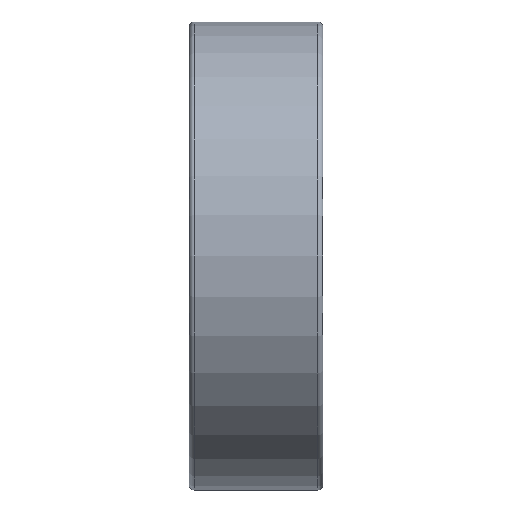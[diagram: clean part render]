
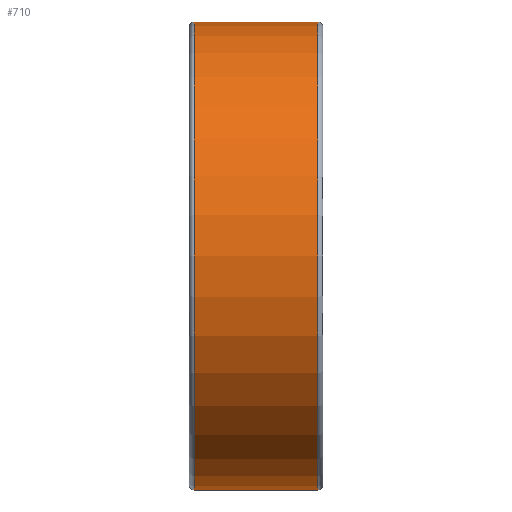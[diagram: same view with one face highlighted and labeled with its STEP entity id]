
A CAD part, front view. The second image highlights one B-rep face of the part: STEP entity #710.
In plain terms, the highlighted cylindrical face has radius 14 mm (diameter 28 mm), a full revolution.
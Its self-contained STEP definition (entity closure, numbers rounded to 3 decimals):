
#42=LINE('',#1365,#48);
#48=VECTOR('',#1116,14.);
#54=CYLINDRICAL_SURFACE('',#863,14.);
#124=FACE_OUTER_BOUND('',#182,.T.);
#182=EDGE_LOOP('',(#634,#635,#636,#637,#638,#639));
#270=CIRCLE('',#858,14.);
#271=CIRCLE('',#859,14.);
#274=CIRCLE('',#864,14.);
#275=CIRCLE('',#865,14.);
#374=VERTEX_POINT('',#1353);
#375=VERTEX_POINT('',#1354);
#377=VERTEX_POINT('',#1362);
#378=VERTEX_POINT('',#1363);
#463=EDGE_CURVE('',#374,#375,#270,.T.);
#464=EDGE_CURVE('',#375,#374,#271,.T.);
#467=EDGE_CURVE('',#377,#378,#274,.T.);
#468=EDGE_CURVE('',#377,#375,#42,.T.);
#469=EDGE_CURVE('',#378,#377,#275,.T.);
#634=ORIENTED_EDGE('',*,*,#467,.F.);
#635=ORIENTED_EDGE('',*,*,#468,.T.);
#636=ORIENTED_EDGE('',*,*,#463,.F.);
#637=ORIENTED_EDGE('',*,*,#464,.F.);
#638=ORIENTED_EDGE('',*,*,#468,.F.);
#639=ORIENTED_EDGE('',*,*,#469,.F.);
#710=ADVANCED_FACE('',(#124),#54,.T.);
#858=AXIS2_PLACEMENT_3D('',#1355,#1102,#1103);
#859=AXIS2_PLACEMENT_3D('',#1356,#1104,#1105);
#863=AXIS2_PLACEMENT_3D('',#1361,#1112,#1113);
#864=AXIS2_PLACEMENT_3D('',#1364,#1114,#1115);
#865=AXIS2_PLACEMENT_3D('',#1366,#1117,#1118);
#1102=DIRECTION('center_axis',(-1.,0.,0.));
#1103=DIRECTION('ref_axis',(0.,-1.,0.));
#1104=DIRECTION('center_axis',(-1.,0.,0.));
#1105=DIRECTION('ref_axis',(0.,-1.,0.));
#1112=DIRECTION('center_axis',(1.,0.,0.));
#1113=DIRECTION('ref_axis',(0.,1.,0.));
#1114=DIRECTION('center_axis',(1.,0.,0.));
#1115=DIRECTION('ref_axis',(0.,-1.,0.));
#1116=DIRECTION('',(-1.,0.,0.));
#1117=DIRECTION('center_axis',(1.,0.,0.));
#1118=DIRECTION('ref_axis',(0.,-1.,0.));
#1353=CARTESIAN_POINT('',(0.3,0.,14.));
#1354=CARTESIAN_POINT('',(0.3,-14.,0.));
#1355=CARTESIAN_POINT('Origin',(0.3,0.,0.));
#1356=CARTESIAN_POINT('Origin',(0.3,0.,0.));
#1361=CARTESIAN_POINT('Origin',(4.,0.,0.));
#1362=CARTESIAN_POINT('',(7.7,-14.,0.));
#1363=CARTESIAN_POINT('',(7.7,0.,14.));
#1364=CARTESIAN_POINT('Origin',(7.7,0.,0.));
#1365=CARTESIAN_POINT('',(4.,-14.,0.));
#1366=CARTESIAN_POINT('Origin',(7.7,0.,0.));
